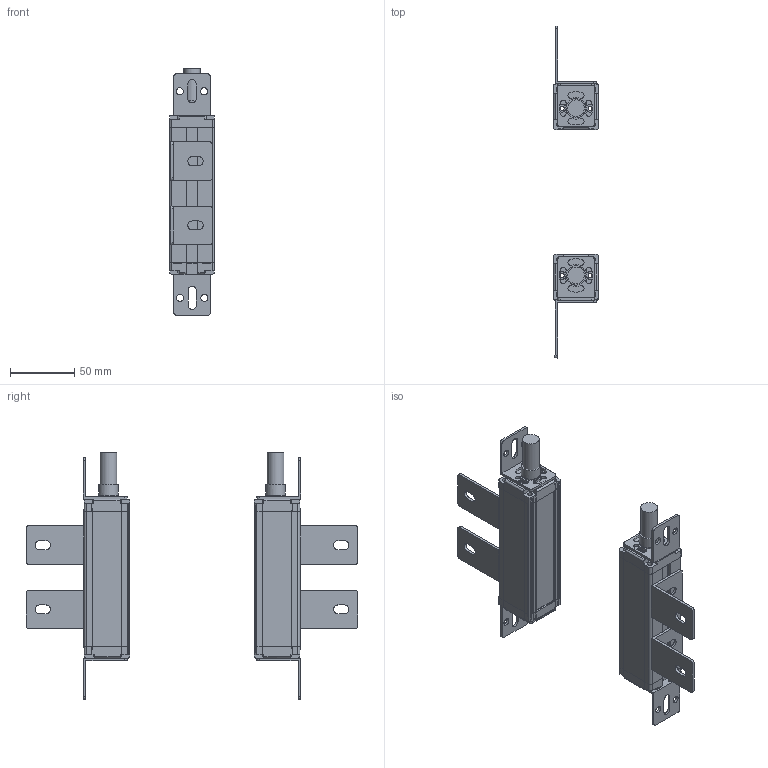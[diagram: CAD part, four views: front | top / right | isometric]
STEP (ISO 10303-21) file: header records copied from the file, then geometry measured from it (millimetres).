
FILE_DESCRIPTION(/* description */ (''),/* implementation_level */ '2;1');
FILE_NAME(/* name */ '0810_35X35_stp_stp.stp',/* time_stamp */ '2023-09-18T17:48:16+08:00',/* author */ (''),/* organization */ (''),/* preprocessor_version */ 'ST-DEVELOPER v16.7',/* originating_system */ 'SIEMENS PLM Software NX 12.0',/* authorisation */ '');
FILE_SCHEMA (('AP203_CONFIGURATION_CONTROLLED_3D_DESIGN_OF_MECHANICAL_PARTS_AND_ASSEMBLIES_MIM_LF { 1 0 10303 403 2 1 2}'));
Length unit declared in the file: millimetre
Products named in the file (1): 0810_35X35_stp_stp_stp
Bounding box: 35.41 x 258.01 x 191.6 mm (x, y, z)
Volume: 164645.6 mm3; surface area: 134695 mm2
Topology: 28 solids, 28 shells, 1182 faces, 3360 edges, 2260 vertices
Faces by surface type: plane 658, cylinder 464, cone 60
Full cylindrical faces by diameter (mm): 3.2 x8, 6 x24, 13 x2, 14.4 x2, 15 x2
Entity records: 39055 total; most frequent: DIRECTION 6832, CARTESIAN_POINT 6745, ORIENTED_EDGE 6612, EDGE_CURVE 3306, AXIS2_PLACEMENT_3D 2347, VERTEX_POINT 2244, LINE 2138, VECTOR 2138
